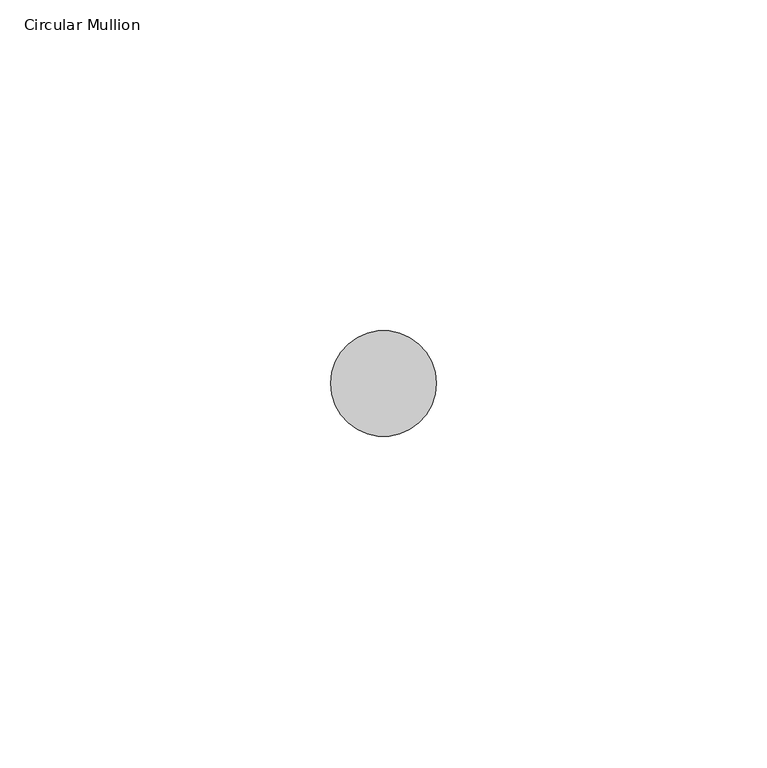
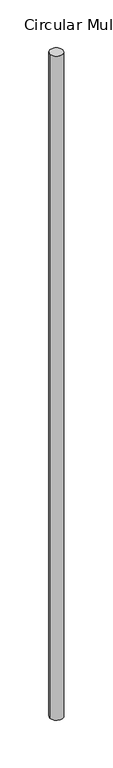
"""IFC4 building model written with IfcOpenShell, lengths in millimetres: member geometry, Circular Mullion : ARQ_HERR_16mm."""

from ifc_helpers import new_model, si_unit, point, frame, origin, origin_2d, place, context, project, spatial, circle_curve, trimmed, segment, composite_curve, outline, extrude, source, transform, mapped, element, save


def circular_mullion_d5be03f1(model_context):
    return source(origin(), model_context, "Body", "SweptSolid", [
        extrude(outline(composite_curve([segment(trimmed(circle_curve(origin_2d(), 8.0), [point((8.0, 0.0))], [point((-8.0, 0.0))], False, "CARTESIAN"), True, "CONTINUOUS"), segment(trimmed(circle_curve(origin_2d(), 8.0), [point((-8.0, 0.0))], [point((8.0, 0.0))], False, "CARTESIAN"), True, "CONTINUOUS")], self_intersect=False)), frame((0.0, 0.0, -876.0), z_axis=(0.0, 0.0, 1.0), x_axis=(1.0, 0.0, 0.0)), (0.0, 0.0, 1.0), 876.0),
    ])


if __name__ == "__main__":
    model = new_model("IFC4")
    model_context = context("Model", 3, world=origin())
    ifc_project = project(units=[si_unit("LENGTHUNIT", "METRE", prefix="MILLI")], contexts=[model_context])
    site = spatial("IfcSite", under=ifc_project)
    building = spatial("IfcBuilding", under=site)
    placement = place(None, origin())
    circular_mullion_shape = circular_mullion_d5be03f1(model_context)
    element("IfcMember", 1, ObjectType="Circular Mullion : ARQ_HERR_16mm", at=placement, inside=building, context=model_context, shape_type="MappedRepresentation", body=[
        mapped(circular_mullion_shape, transform((0.0, 0.0, 0.0), x_axis=(1.0, 0.0, 0.0), y_axis=(0.0, 1.0, 0.0), z_axis=(0.0, 0.0, 1.0))),
    ])
    save(model, "model.ifc")
